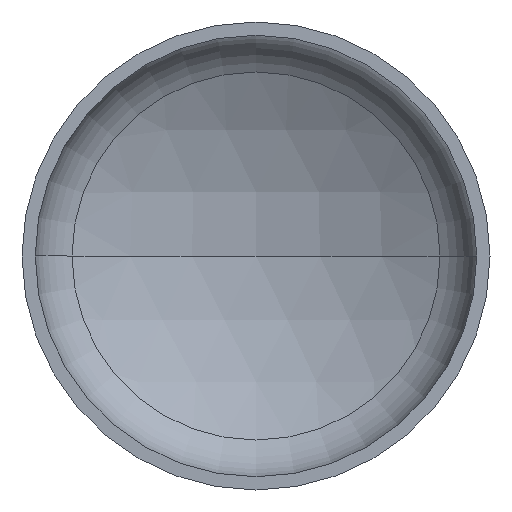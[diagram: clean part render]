
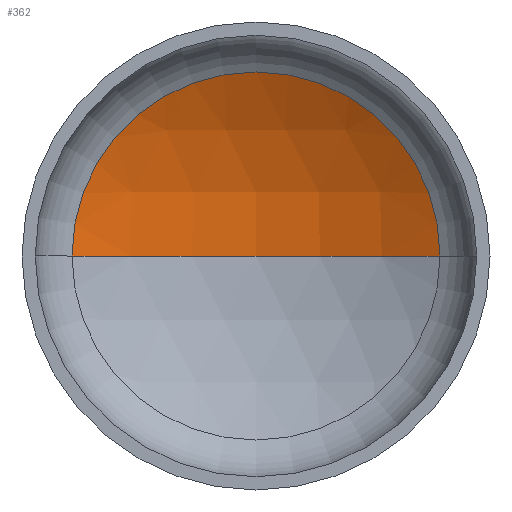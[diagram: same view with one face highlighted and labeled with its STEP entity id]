
A CAD part, front view. The second image highlights one B-rep face of the part: STEP entity #362.
In plain terms, the highlighted spherical face has radius 960 mm.
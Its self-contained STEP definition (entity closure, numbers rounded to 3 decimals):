
#2 = ORIENTED_EDGE ( 'NONE', *, *, #357, .F. ) ;
#8 = ORIENTED_EDGE ( 'NONE', *, *, #368, .T. ) ;
#19 = CARTESIAN_POINT ( 'NONE',  ( 0., 271.101, 0. ) ) ;
#20 = AXIS2_PLACEMENT_3D ( 'NONE', #19, #165, #166 ) ;
#25 = AXIS2_PLACEMENT_3D ( 'NONE', #371, #179, #389 ) ;
#32 = AXIS2_PLACEMENT_3D ( 'NONE', #171, #172, #186 ) ;
#34 = CARTESIAN_POINT ( 'NONE',  ( 0., -564.881, 0. ) ) ;
#39 = AXIS2_PLACEMENT_3D ( 'NONE', #34, #50, #64 ) ;
#50 = DIRECTION ( 'NONE',  ( 0., 0., -1. ) ) ;
#52 = EDGE_LOOP ( 'NONE', ( #2, #62, #8 ) ) ;
#62 = ORIENTED_EDGE ( 'NONE', *, *, #348, .T. ) ;
#64 = DIRECTION ( 'NONE',  ( -1., 0., 0. ) ) ;
#83 = VERTEX_POINT ( 'NONE', #317 ) ;
#98 = VERTEX_POINT ( 'NONE', #298 ) ;
#125 = VERTEX_POINT ( 'NONE', #313 ) ;
#165 = DIRECTION ( 'NONE',  ( 0., -1., 0. ) ) ;
#166 = DIRECTION ( 'NONE',  ( 1., 0., 0. ) ) ;
#171 = CARTESIAN_POINT ( 'NONE',  ( 0., -564.881, 0. ) ) ;
#172 = DIRECTION ( 'NONE',  ( 0., 0., 1. ) ) ;
#179 = DIRECTION ( 'NONE',  ( 0., 0., -1. ) ) ;
#186 = DIRECTION ( 'NONE',  ( 1., 0., 0. ) ) ;
#207 = FACE_OUTER_BOUND ( 'NONE', #52, .T. ) ;
#298 = CARTESIAN_POINT ( 'NONE',  ( 471.948, 271.101, 0. ) ) ;
#313 = CARTESIAN_POINT ( 'NONE',  ( -471.948, 271.101, 0. ) ) ;
#317 = CARTESIAN_POINT ( 'NONE',  ( 0., 395.119, 0. ) ) ;
#343 = CIRCLE ( 'NONE', #20, 471.948 ) ;
#348 = EDGE_CURVE ( 'NONE', #83, #98, #350, .T. ) ;
#350 = CIRCLE ( 'NONE', #39, 960. ) ;
#357 = EDGE_CURVE ( 'NONE', #83, #125, #395, .T. ) ;
#362 = ADVANCED_FACE ( 'NONE', ( #207 ), #388, .F. ) ;
#368 = EDGE_CURVE ( 'NONE', #98, #125, #343, .T. ) ;
#371 = CARTESIAN_POINT ( 'NONE',  ( 0., -564.881, 0. ) ) ;
#388 = SPHERICAL_SURFACE ( 'NONE', #25, 960. ) ;
#389 = DIRECTION ( 'NONE',  ( -1., 0., 0. ) ) ;
#395 = CIRCLE ( 'NONE', #32, 960. ) ;
